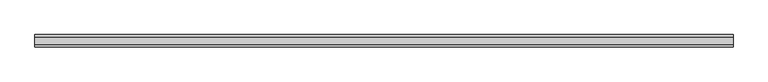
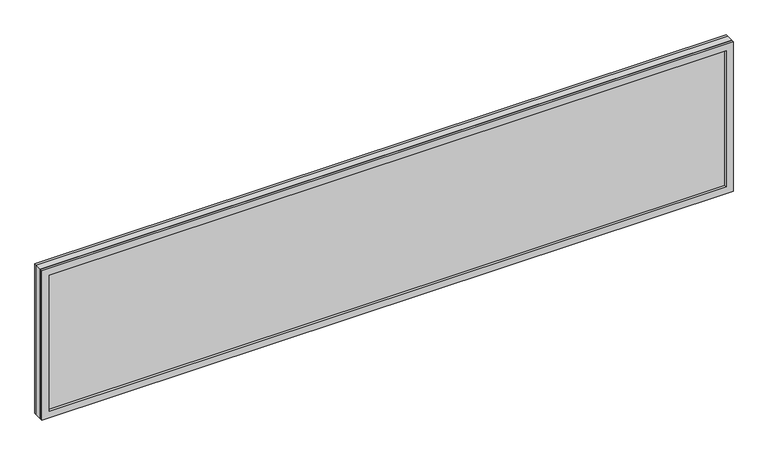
"""IFC4 building model written with IfcOpenShell, lengths in millimetres: plate geometry, ARQ-PA-IN-Vidrio Fijo : ARQ-PA-IN-Vidrio Fijo."""

import ifcopenshell
import ifcopenshell.guid

model = None  # the IFC model being written
_history = None  # IfcOwnerHistory: only IFC2X3 demands one
_inside = {}  # id of a spatial element -> (the spatial element, [elements in it])
_under = {}  # id of a project, library or spatial element -> (it, [spatial elements below it])
_declared = {}  # id of a project -> (the project, [libraries it declares])
_typed = {}  # id of a type object -> (the type object, [elements of that type])
_made_of = {}  # id of a material, layer set ... -> (it, [elements and type objects made of it])


def new_model(schema):
    """Start an empty IFC model of exactly this schema.

    Asked for "IFC4X3", IfcOpenShell would pick the latest addendum, in which some entities
    have other attributes; the version numbers below select the first issue.
    IFC2X3 requires an IfcOwnerHistory on every rooted entity: one is made here for all.
    """
    global model, _history
    if schema == "IFC4X3":
        model = ifcopenshell.file(schema_version=(4, 3, 0, 0))
    else:
        model = ifcopenshell.file(schema=schema)
    _inside.clear()
    _under.clear()
    _declared.clear()
    _typed.clear()
    _made_of.clear()
    _history = None
    if model.schema == "IFC2X3":
        org = make("IfcOrganization", Name="unknown")
        user = make(
            "IfcPersonAndOrganization",
            ThePerson=make("IfcPerson", FamilyName="unknown"),
            TheOrganization=org,
        )
        app = make(
            "IfcApplication",
            ApplicationDeveloper=org,
            Version="unknown",
            ApplicationFullName="unknown",
            ApplicationIdentifier="unknown",
        )
        _history = make(
            "IfcOwnerHistory",
            OwningUser=user,
            OwningApplication=app,
            ChangeAction="ADDED",
            CreationDate=0,
        )
    return model


def make(cls, **values):
    """One entity of the class cls with the attributes given. An attribute that is None is left unset."""
    return model.create_entity(
        cls, **{name: value for name, value in values.items() if value is not None}
    )


def rooted(cls, **values):
    """An entity with a GlobalId (a new one), such as an element, a storey or a relation."""
    return make(cls, GlobalId=ifcopenshell.guid.new(), OwnerHistory=_history, **values)


def si_unit(unit_type, name, prefix=None):
    """IfcSIUnit, for example si_unit("LENGTHUNIT", "METRE", prefix="MILLI")."""
    return make("IfcSIUnit", UnitType=unit_type, Prefix=prefix, Name=name)


def assignment(units):
    """IfcUnitAssignment: the units of a project."""
    return None if units is None else make("IfcUnitAssignment", Units=units)


def point(xyz):
    """IfcCartesianPoint."""
    return None if xyz is None else make("IfcCartesianPoint", Coordinates=xyz)


def direction(xyz):
    """IfcDirection."""
    return None if xyz is None else make("IfcDirection", DirectionRatios=xyz)


def frame(location, z_axis=None, x_axis=None):
    """IfcAxis2Placement3D, a coordinate frame: its origin and axes. An axis left out is left unset."""
    return make(
        "IfcAxis2Placement3D",
        Location=point(location),
        Axis=direction(z_axis),
        RefDirection=direction(x_axis),
    )


def origin():
    """The frame at (0, 0, 0) with its axes left unset."""
    return frame((0.0, 0.0, 0.0))


def origin_with_axes():
    """The frame at (0, 0, 0) with the z axis (0, 0, 1) and the x axis (1, 0, 0) written out."""
    return frame((0.0, 0.0, 0.0), z_axis=(0.0, 0.0, 1.0), x_axis=(1.0, 0.0, 0.0))


def place(relative_to, where):
    """IfcLocalPlacement: puts the frame where relative to a parent placement (None: the world)."""
    return make(
        "IfcLocalPlacement", PlacementRelTo=relative_to, RelativePlacement=where
    )


def context(
    kind, dimensions, precision=None, world=None, true_north=None, identifier=None
):
    """IfcGeometricRepresentationContext, for example the 3D "Model" context."""
    return make(
        "IfcGeometricRepresentationContext",
        ContextIdentifier=identifier,
        ContextType=kind,
        CoordinateSpaceDimension=dimensions,
        Precision=precision,
        WorldCoordinateSystem=world,
        TrueNorth=true_north,
    )


def project(units=None, contexts=None):
    """IfcProject with its units and contexts."""
    return rooted(
        "IfcProject",
        Name="project",
        RepresentationContexts=contexts,
        UnitsInContext=assignment(units),
    )


def spatial(cls, under=None, at=None, **own):
    """A site, building, storey or space (cls), placed at a placement, below another one or the project."""
    s = rooted(cls, ObjectPlacement=at, **own)
    if under is not None:
        _under.setdefault(under.id(), (under, []))[1].append(s)
    return s


def polyline(points):
    """IfcPolyline through the points."""
    return make("IfcPolyline", Points=[point(p) for p in points])


def outline(outer, holes=None, kind="AREA"):
    """IfcArbitraryClosedProfileDef: a profile drawn as a closed curve; with holes, ...WithVoids."""
    if holes is None:
        return make("IfcArbitraryClosedProfileDef", ProfileType=kind, OuterCurve=outer)
    return make(
        "IfcArbitraryProfileDefWithVoids",
        ProfileType=kind,
        OuterCurve=outer,
        InnerCurves=holes,
    )


def extrude(swept, where, along, depth):
    """IfcExtrudedAreaSolid: the profile swept, set in the frame where, extruded along a direction by depth."""
    return make(
        "IfcExtrudedAreaSolid",
        SweptArea=swept,
        Position=where,
        ExtrudedDirection=direction(along),
        Depth=depth,
    )


def shape(context_of_items, identifier, shape_type, items):
    """IfcShapeRepresentation: the items that make up one representation, for example the "Body"."""
    return make(
        "IfcShapeRepresentation",
        ContextOfItems=context_of_items,
        RepresentationIdentifier=identifier,
        RepresentationType=shape_type,
        Items=items,
    )


def source(mapping_origin, context_of_items, identifier, shape_type, items):
    """IfcRepresentationMap: a shape defined once, which mapped items show again and again."""
    return make(
        "IfcRepresentationMap",
        MappingOrigin=mapping_origin,
        MappedRepresentation=shape(context_of_items, identifier, shape_type, items),
    )


def transform(
    local_origin,
    x_axis=None,
    y_axis=None,
    z_axis=None,
    scale=None,
    scale2=None,
    scale3=None,
    uniform=True,
):
    """IfcCartesianTransformationOperator3D, or its non-uniform kind. x_axis, y_axis, z_axis: its Axis1, 2, 3."""
    if uniform:
        return make(
            "IfcCartesianTransformationOperator3D",
            Axis1=direction(x_axis),
            Axis2=direction(y_axis),
            LocalOrigin=point(local_origin),
            Scale=scale,
            Axis3=direction(z_axis),
        )
    return make(
        "IfcCartesianTransformationOperator3DnonUniform",
        Axis1=direction(x_axis),
        Axis2=direction(y_axis),
        LocalOrigin=point(local_origin),
        Scale=scale,
        Axis3=direction(z_axis),
        Scale2=scale2,
        Scale3=scale3,
    )


def mapped(mapping_source, mapping_target):
    """IfcMappedItem: shows the shape of a source again, moved by a transform."""
    return make(
        "IfcMappedItem", MappingSource=mapping_source, MappingTarget=mapping_target
    )


def made_of(thing, what):
    """Note that an element or type object is made of a material, layer set ...; save() writes the relation."""
    if what is not None:
        _made_of.setdefault(what.id(), (what, []))[1].append(thing)
    return thing


def element(
    cls,
    number,
    at=None,
    inside=None,
    cuts=None,
    type_object=None,
    material=None,
    context=None,
    identifier="Body",
    shape_type=None,
    held_by="IfcProductDefinitionShape",
    body=None,
    shapes=None,
    **own,
):
    """One element of the class cls, such as IfcWall. Its Tag is "e" and its number.

    at: its placement. inside: the storey or other place that contains it. cuts: it is an
    opening in that element (IfcRelVoidsElement). A single representation is given by context,
    identifier, shape_type and body (its items); several are given by shapes. held_by: the class
    of the entity that holds the representations. save() writes the other relations.
    """
    e = rooted(cls, Tag="e%d" % number, ObjectPlacement=at, **own)
    if body is not None:
        shapes = [shape(context, identifier, shape_type, body)]
    if shapes is not None:
        e.Representation = make(held_by, Representations=shapes)
    if inside is not None:
        _inside.setdefault(inside.id(), (inside, []))[1].append(e)
    if cuts is not None:
        rooted(
            "IfcRelVoidsElement", RelatingBuildingElement=cuts, RelatedOpeningElement=e
        )
    if type_object is not None:
        _typed.setdefault(type_object.id(), (type_object, []))[1].append(e)
    return made_of(e, material)


def aggregate(whole, parts):
    """IfcRelAggregates: a whole, such as a stair, and the parts it consists of."""
    return rooted("IfcRelAggregates", RelatingObject=whole, RelatedObjects=parts)


def save(model, path):
    """Write the relations noted so far, then the file.

    IfcRelAggregates (storeys below a building ...), IfcRelContainedInSpatialStructure (elements
    in a storey), IfcRelDefinesByType, IfcRelAssociatesMaterial and IfcRelDeclares: one each for
    every whole, place, type object, material and project.
    """
    for whole, parts in _under.values():
        aggregate(whole, parts)
    for where, things in _inside.values():
        rooted(
            "IfcRelContainedInSpatialStructure",
            RelatedElements=things,
            RelatingStructure=where,
        )
    for kind, things in _typed.values():
        rooted("IfcRelDefinesByType", RelatedObjects=things, RelatingType=kind)
    for what, things in _made_of.values():
        rooted("IfcRelAssociatesMaterial", RelatedObjects=things, RelatingMaterial=what)
    for by, libraries in _declared.values():
        rooted("IfcRelDeclares", RelatingContext=by, RelatedDefinitions=libraries)
    model.write(path)


def plate_a66405bc(model_context):
    return source(origin(), model_context, "Body", "SweptSolid", [
        extrude(outline(polyline([(985.4599578, 10.0), (985.4599578, -10.0), (-985.4599578, -10.0), (-985.4599578, 10.0), (985.4599578, 10.0)])), origin_with_axes(), (0.0, 0.0, 1.0), 450.0),
        extrude(outline(polyline([(450.0, -985.4599578), (0.0, -985.4599578), (0.0, 985.4599578), (450.0, 985.4599578), (450.0, -985.4599578)]), holes=[polyline([(430.0, -965.4599578), (430.0, 965.4599578), (20.0, 965.4599578), (20.0, -965.4599578), (430.0, -965.4599578)])]), frame((0.0, -17.5, 0.0), z_axis=(0.0, 1.0, 0.0), x_axis=(0.0, 0.0, 1.0)), (0.0, 0.0, 1.0), 35.0),
    ])


if __name__ == "__main__":
    model = new_model("IFC4")
    model_context = context("Model", 3, world=origin())
    ifc_project = project(units=[si_unit("LENGTHUNIT", "METRE", prefix="MILLI")], contexts=[model_context])
    site = spatial("IfcSite", under=ifc_project)
    building = spatial("IfcBuilding", under=site)
    placement = place(None, origin())
    plate_shape = plate_a66405bc(model_context)
    element("IfcPlate", 1, ObjectType="ARQ-PA-IN-Vidrio Fijo : ARQ-PA-IN-Vidrio Fijo", at=placement, inside=building, context=model_context, shape_type="MappedRepresentation", body=[
        mapped(plate_shape, transform((0.0, 0.0, 0.0), x_axis=(1.0, 0.0, 0.0), y_axis=(0.0, 1.0, 0.0), z_axis=(0.0, 0.0, 1.0))),
    ])
    save(model, "model.ifc")
